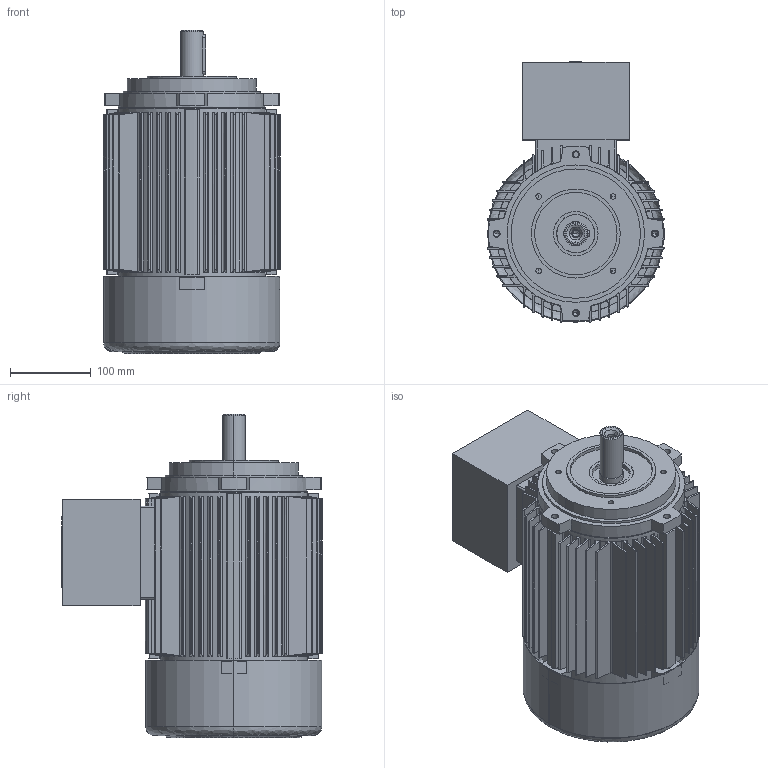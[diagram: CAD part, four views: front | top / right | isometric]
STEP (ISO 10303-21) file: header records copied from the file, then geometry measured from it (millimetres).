
FILE_DESCRIPTION (( 'STEP AP214' ), '1' );
FILE_NAME ('20.18394-C 5AT 112 B14_F130 Exd.STEP', '2018-05-08T07:47:05', ( '' ), ( '' ), 'SwSTEP 2.0', 'SolidWorks 2017', '' );
FILE_SCHEMA (( 'AUTOMOTIVE_DESIGN' ));
Length unit declared in the file: millimetre
Products named in the file (1): 20.18394-C 5AT 112 B14_F130 Exd
Bounding box: 219.52 x 322.52 x 399.8 mm (x, y, z)
Volume: 5530050.5 mm3; surface area: 1032158.7 mm2
Topology: 4 solids, 5 shells, 751 faces, 1930 edges, 1259 vertices
Faces by surface type: cylinder 336, plane 287, cone 120, bspline 8
Entity records: 32533 total; most frequent: CARTESIAN_POINT 8345, ORIENTED_EDGE 3812, DIRECTION 3499, EDGE_CURVE 1906, AXIS2_PLACEMENT_3D 1309, VERTEX_POINT 1259, VECTOR 881, LINE 881
